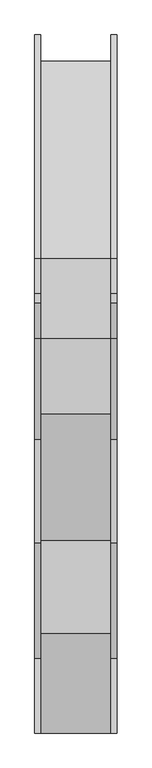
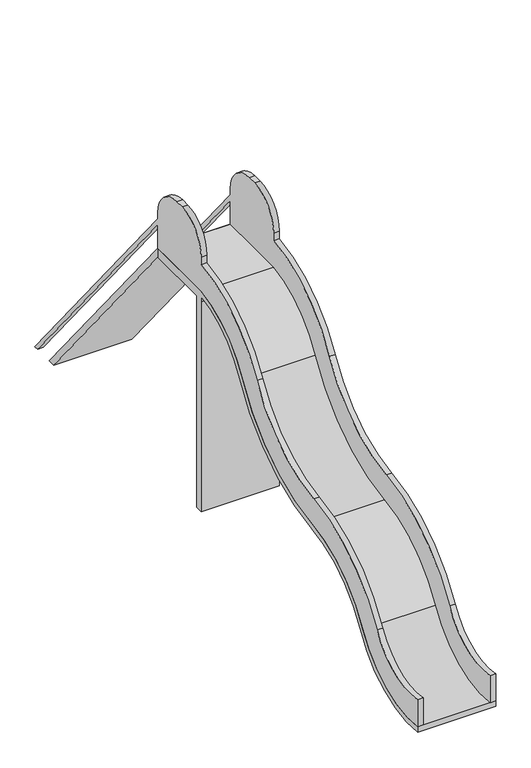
"""IFC4 building model written with IfcOpenShell, lengths in millimetres: furniture geometry, Rutsche : Rutsche."""

import ifcopenshell
import ifcopenshell.guid

model = None  # the IFC model being written
_history = None  # IfcOwnerHistory: only IFC2X3 demands one
_inside = {}  # id of a spatial element -> (the spatial element, [elements in it])
_under = {}  # id of a project, library or spatial element -> (it, [spatial elements below it])
_declared = {}  # id of a project -> (the project, [libraries it declares])
_typed = {}  # id of a type object -> (the type object, [elements of that type])
_made_of = {}  # id of a material, layer set ... -> (it, [elements and type objects made of it])


def new_model(schema):
    """Start an empty IFC model of exactly this schema.

    Asked for "IFC4X3", IfcOpenShell would pick the latest addendum, in which some entities
    have other attributes; the version numbers below select the first issue.
    IFC2X3 requires an IfcOwnerHistory on every rooted entity: one is made here for all.
    """
    global model, _history
    if schema == "IFC4X3":
        model = ifcopenshell.file(schema_version=(4, 3, 0, 0))
    else:
        model = ifcopenshell.file(schema=schema)
    _inside.clear()
    _under.clear()
    _declared.clear()
    _typed.clear()
    _made_of.clear()
    _history = None
    if model.schema == "IFC2X3":
        org = make("IfcOrganization", Name="unknown")
        user = make(
            "IfcPersonAndOrganization",
            ThePerson=make("IfcPerson", FamilyName="unknown"),
            TheOrganization=org,
        )
        app = make(
            "IfcApplication",
            ApplicationDeveloper=org,
            Version="unknown",
            ApplicationFullName="unknown",
            ApplicationIdentifier="unknown",
        )
        _history = make(
            "IfcOwnerHistory",
            OwningUser=user,
            OwningApplication=app,
            ChangeAction="ADDED",
            CreationDate=0,
        )
    return model


def make(cls, **values):
    """One entity of the class cls with the attributes given. An attribute that is None is left unset."""
    return model.create_entity(
        cls, **{name: value for name, value in values.items() if value is not None}
    )


def rooted(cls, **values):
    """An entity with a GlobalId (a new one), such as an element, a storey or a relation."""
    return make(cls, GlobalId=ifcopenshell.guid.new(), OwnerHistory=_history, **values)


def si_unit(unit_type, name, prefix=None):
    """IfcSIUnit, for example si_unit("LENGTHUNIT", "METRE", prefix="MILLI")."""
    return make("IfcSIUnit", UnitType=unit_type, Prefix=prefix, Name=name)


def assignment(units):
    """IfcUnitAssignment: the units of a project."""
    return None if units is None else make("IfcUnitAssignment", Units=units)


def point(xyz):
    """IfcCartesianPoint."""
    return None if xyz is None else make("IfcCartesianPoint", Coordinates=xyz)


def direction(xyz):
    """IfcDirection."""
    return None if xyz is None else make("IfcDirection", DirectionRatios=xyz)


def frame(location, z_axis=None, x_axis=None):
    """IfcAxis2Placement3D, a coordinate frame: its origin and axes. An axis left out is left unset."""
    return make(
        "IfcAxis2Placement3D",
        Location=point(location),
        Axis=direction(z_axis),
        RefDirection=direction(x_axis),
    )


def frame_2d(location, x_axis=None):
    """IfcAxis2Placement2D, a coordinate frame in the plane: its origin and x axis."""
    return make(
        "IfcAxis2Placement2D", Location=point(location), RefDirection=direction(x_axis)
    )


def origin():
    """The frame at (0, 0, 0) with its axes left unset."""
    return frame((0.0, 0.0, 0.0))


def place(relative_to, where):
    """IfcLocalPlacement: puts the frame where relative to a parent placement (None: the world)."""
    return make(
        "IfcLocalPlacement", PlacementRelTo=relative_to, RelativePlacement=where
    )


def context(
    kind, dimensions, precision=None, world=None, true_north=None, identifier=None
):
    """IfcGeometricRepresentationContext, for example the 3D "Model" context."""
    return make(
        "IfcGeometricRepresentationContext",
        ContextIdentifier=identifier,
        ContextType=kind,
        CoordinateSpaceDimension=dimensions,
        Precision=precision,
        WorldCoordinateSystem=world,
        TrueNorth=true_north,
    )


def project(units=None, contexts=None):
    """IfcProject with its units and contexts."""
    return rooted(
        "IfcProject",
        Name="project",
        RepresentationContexts=contexts,
        UnitsInContext=assignment(units),
    )


def spatial(cls, under=None, at=None, **own):
    """A site, building, storey or space (cls), placed at a placement, below another one or the project."""
    s = rooted(cls, ObjectPlacement=at, **own)
    if under is not None:
        _under.setdefault(under.id(), (under, []))[1].append(s)
    return s


def polyline(points):
    """IfcPolyline through the points."""
    return make("IfcPolyline", Points=[point(p) for p in points])


def circle_curve(where, radius):
    """IfcCircle in the frame where."""
    return make("IfcCircle", Position=where, Radius=radius)


def trimmed(basis, trim1, trim2, sense, master):
    """IfcTrimmedCurve: the piece of a basis curve between two trims."""
    return make(
        "IfcTrimmedCurve",
        BasisCurve=basis,
        Trim1=trim1,
        Trim2=trim2,
        SenseAgreement=sense,
        MasterRepresentation=master,
    )


def segment(curve, same_sense, transition):
    """IfcCompositeCurveSegment."""
    return make(
        "IfcCompositeCurveSegment",
        Transition=transition,
        SameSense=same_sense,
        ParentCurve=curve,
    )


def composite_curve(segments, self_intersect=None):
    """IfcCompositeCurve: segments joined end to end."""
    return make("IfcCompositeCurve", Segments=segments, SelfIntersect=self_intersect)


def outline(outer, holes=None, kind="AREA"):
    """IfcArbitraryClosedProfileDef: a profile drawn as a closed curve; with holes, ...WithVoids."""
    if holes is None:
        return make("IfcArbitraryClosedProfileDef", ProfileType=kind, OuterCurve=outer)
    return make(
        "IfcArbitraryProfileDefWithVoids",
        ProfileType=kind,
        OuterCurve=outer,
        InnerCurves=holes,
    )


def extrude(swept, where, along, depth):
    """IfcExtrudedAreaSolid: the profile swept, set in the frame where, extruded along a direction by depth."""
    return make(
        "IfcExtrudedAreaSolid",
        SweptArea=swept,
        Position=where,
        ExtrudedDirection=direction(along),
        Depth=depth,
    )


def shape(context_of_items, identifier, shape_type, items):
    """IfcShapeRepresentation: the items that make up one representation, for example the "Body"."""
    return make(
        "IfcShapeRepresentation",
        ContextOfItems=context_of_items,
        RepresentationIdentifier=identifier,
        RepresentationType=shape_type,
        Items=items,
    )


def source(mapping_origin, context_of_items, identifier, shape_type, items):
    """IfcRepresentationMap: a shape defined once, which mapped items show again and again."""
    return make(
        "IfcRepresentationMap",
        MappingOrigin=mapping_origin,
        MappedRepresentation=shape(context_of_items, identifier, shape_type, items),
    )


def transform(
    local_origin,
    x_axis=None,
    y_axis=None,
    z_axis=None,
    scale=None,
    scale2=None,
    scale3=None,
    uniform=True,
):
    """IfcCartesianTransformationOperator3D, or its non-uniform kind. x_axis, y_axis, z_axis: its Axis1, 2, 3."""
    if uniform:
        return make(
            "IfcCartesianTransformationOperator3D",
            Axis1=direction(x_axis),
            Axis2=direction(y_axis),
            LocalOrigin=point(local_origin),
            Scale=scale,
            Axis3=direction(z_axis),
        )
    return make(
        "IfcCartesianTransformationOperator3DnonUniform",
        Axis1=direction(x_axis),
        Axis2=direction(y_axis),
        LocalOrigin=point(local_origin),
        Scale=scale,
        Axis3=direction(z_axis),
        Scale2=scale2,
        Scale3=scale3,
    )


def mapped(mapping_source, mapping_target):
    """IfcMappedItem: shows the shape of a source again, moved by a transform."""
    return make(
        "IfcMappedItem", MappingSource=mapping_source, MappingTarget=mapping_target
    )


def made_of(thing, what):
    """Note that an element or type object is made of a material, layer set ...; save() writes the relation."""
    if what is not None:
        _made_of.setdefault(what.id(), (what, []))[1].append(thing)
    return thing


def element(
    cls,
    number,
    at=None,
    inside=None,
    cuts=None,
    type_object=None,
    material=None,
    context=None,
    identifier="Body",
    shape_type=None,
    held_by="IfcProductDefinitionShape",
    body=None,
    shapes=None,
    **own,
):
    """One element of the class cls, such as IfcWall. Its Tag is "e" and its number.

    at: its placement. inside: the storey or other place that contains it. cuts: it is an
    opening in that element (IfcRelVoidsElement). A single representation is given by context,
    identifier, shape_type and body (its items); several are given by shapes. held_by: the class
    of the entity that holds the representations. save() writes the other relations.
    """
    e = rooted(cls, Tag="e%d" % number, ObjectPlacement=at, **own)
    if body is not None:
        shapes = [shape(context, identifier, shape_type, body)]
    if shapes is not None:
        e.Representation = make(held_by, Representations=shapes)
    if inside is not None:
        _inside.setdefault(inside.id(), (inside, []))[1].append(e)
    if cuts is not None:
        rooted(
            "IfcRelVoidsElement", RelatingBuildingElement=cuts, RelatedOpeningElement=e
        )
    if type_object is not None:
        _typed.setdefault(type_object.id(), (type_object, []))[1].append(e)
    return made_of(e, material)


def aggregate(whole, parts):
    """IfcRelAggregates: a whole, such as a stair, and the parts it consists of."""
    return rooted("IfcRelAggregates", RelatingObject=whole, RelatedObjects=parts)


def save(model, path):
    """Write the relations noted so far, then the file.

    IfcRelAggregates (storeys below a building ...), IfcRelContainedInSpatialStructure (elements
    in a storey), IfcRelDefinesByType, IfcRelAssociatesMaterial and IfcRelDeclares: one each for
    every whole, place, type object, material and project.
    """
    for whole, parts in _under.values():
        aggregate(whole, parts)
    for where, things in _inside.values():
        rooted(
            "IfcRelContainedInSpatialStructure",
            RelatedElements=things,
            RelatingStructure=where,
        )
    for kind, things in _typed.values():
        rooted("IfcRelDefinesByType", RelatedObjects=things, RelatingType=kind)
    for what, things in _made_of.values():
        rooted("IfcRelAssociatesMaterial", RelatedObjects=things, RelatingMaterial=what)
    for by, libraries in _declared.values():
        rooted("IfcRelDeclares", RelatingContext=by, RelatedDefinitions=libraries)
    model.write(path)


def furniture_f8f826ff(model_context):
    return source(origin(), model_context, "Body", "SweptSolid", [
        extrude(outline(composite_curve([segment(polyline([(0.0, 1372.2177235), (0.0, 1240.0), (-400.0, 1240.0)]), True, "CONTINUOUS"), segment(trimmed(circle_curve(frame_2d((-335.3359946, 733.2259683)), 510.882915), [point((-400.0, 1240.0))], [point((-783.3333473, 978.7859911))], True, "CARTESIAN"), True, "CONTINUOUS"), segment(trimmed(circle_curve(frame_2d((-1511.5017145, 1377.9156729)), 830.3816436), [point((-783.3333473, 978.7859911))], [point((-1422.0682118, 552.3641467))], False, "CARTESIAN"), True, "CONTINUOUS"), segment(trimmed(circle_curve(frame_2d((-1355.6633016, -60.6127948)), 616.5633324), [point((-1422.0682118, 552.3641467))], [point((-1891.5512048, 244.3044038))], True, "CARTESIAN"), True, "CONTINUOUS"), segment(trimmed(circle_curve(frame_2d((-2320.6641107, 488.4672303)), 493.7138562), [point((-1891.5512048, 244.3044038))], [point((-2396.8114234, 0.6609587))], False, "CARTESIAN"), True, "CONTINUOUS"), segment(polyline([(-2396.8114234, 0.6609587), (-2396.8114234, 153.2944365)]), True, "CONTINUOUS"), segment(trimmed(circle_curve(frame_2d((-2320.6641107, 488.4672303)), 343.7138562), [point((-2396.8114234, 153.2944365))], [point((-2021.9241629, 318.4858827))], True, "CARTESIAN"), True, "CONTINUOUS"), segment(trimmed(circle_curve(frame_2d((-1355.6633016, -60.6127948)), 766.5633324), [point((-2021.9241629, 318.4858827))], [point((-1438.2234646, 701.4916351))], False, "CARTESIAN"), True, "CONTINUOUS"), segment(trimmed(circle_curve(frame_2d((-1511.5017145, 1377.9156729)), 680.3816436), [point((-1438.2234646, 701.4916351))], [point((-914.8695583, 1050.8847095))], True, "CARTESIAN"), True, "CONTINUOUS"), segment(trimmed(circle_curve(frame_2d((-335.3359946, 733.2259683)), 660.882915), [point((-914.8695583, 1050.8847095))], [point((-400.0, 1390.9377545))], False, "CARTESIAN"), True, "CONTINUOUS"), segment(polyline([(-400.0, 1390.9377545), (-400.0, 1432.0)]), True, "CONTINUOUS"), segment(trimmed(circle_curve(frame_2d((-223.9304115, 1432.0)), 176.0695885), [point((-400.0, 1432.0))], [point((-223.9304115, 1608.0695885))], False, "CARTESIAN"), True, "CONTINUOUS"), segment(polyline([(-223.9304115, 1608.0695885), (-176.0695885, 1608.0695885)]), True, "CONTINUOUS"), segment(trimmed(circle_curve(frame_2d((-176.0695885, 1432.0)), 176.0695885), [point((-176.0695885, 1608.0695885))], [point((-1.8713363, 1406.3978728))], False, "CARTESIAN"), True, "CONTINUOUS"), segment(polyline([(-1.8713363, 1406.3978728), (1132.3204967, 0.0), (1106.6271963, 0.0), (0.0, 1372.2177235)]), True, "CONTINUOUS")], self_intersect=False)), frame((385.6511751, 0.0, 0.0), z_axis=(1.0, 0.0, 0.0), x_axis=(0.0, 1.0, 0.0)), (0.0, 0.0, 1.0), 30.0),
        extrude(outline(composite_curve([segment(polyline([(0.0, 1372.2177235), (0.0, 1240.0), (-400.0, 1240.0)]), True, "CONTINUOUS"), segment(trimmed(circle_curve(frame_2d((-335.3359946, 733.2259683)), 510.882915), [point((-400.0, 1240.0))], [point((-783.3333473, 978.7859911))], True, "CARTESIAN"), True, "CONTINUOUS"), segment(trimmed(circle_curve(frame_2d((-1511.5017145, 1377.9156729)), 830.3816436), [point((-783.3333473, 978.7859911))], [point((-1422.0682118, 552.3641467))], False, "CARTESIAN"), True, "CONTINUOUS"), segment(trimmed(circle_curve(frame_2d((-1355.6633016, -60.6127948)), 616.5633324), [point((-1422.0682118, 552.3641467))], [point((-1891.5512048, 244.3044038))], True, "CARTESIAN"), True, "CONTINUOUS"), segment(trimmed(circle_curve(frame_2d((-2320.6641107, 488.4672303)), 493.7138562), [point((-1891.5512048, 244.3044038))], [point((-2396.8114234, 0.6609587))], False, "CARTESIAN"), True, "CONTINUOUS"), segment(polyline([(-2396.8114234, 0.6609587), (-2396.8114234, 153.2944365)]), True, "CONTINUOUS"), segment(trimmed(circle_curve(frame_2d((-2320.6641107, 488.4672303)), 343.7138562), [point((-2396.8114234, 153.2944365))], [point((-2021.9241629, 318.4858827))], True, "CARTESIAN"), True, "CONTINUOUS"), segment(trimmed(circle_curve(frame_2d((-1355.6633016, -60.6127948)), 766.5633324), [point((-2021.9241629, 318.4858827))], [point((-1438.2234646, 701.4916351))], False, "CARTESIAN"), True, "CONTINUOUS"), segment(trimmed(circle_curve(frame_2d((-1511.5017145, 1377.9156729)), 680.3816436), [point((-1438.2234646, 701.4916351))], [point((-914.8695583, 1050.8847095))], True, "CARTESIAN"), True, "CONTINUOUS"), segment(trimmed(circle_curve(frame_2d((-335.3359946, 733.2259683)), 660.882915), [point((-914.8695583, 1050.8847095))], [point((-400.0, 1390.9377545))], False, "CARTESIAN"), True, "CONTINUOUS"), segment(polyline([(-400.0, 1390.9377545), (-400.0, 1432.0)]), True, "CONTINUOUS"), segment(trimmed(circle_curve(frame_2d((-223.9304115, 1432.0)), 176.0695885), [point((-400.0, 1432.0))], [point((-223.9304115, 1608.0695885))], False, "CARTESIAN"), True, "CONTINUOUS"), segment(polyline([(-223.9304115, 1608.0695885), (-176.0695885, 1608.0695885)]), True, "CONTINUOUS"), segment(trimmed(circle_curve(frame_2d((-176.0695885, 1432.0)), 176.0695885), [point((-176.0695885, 1608.0695885))], [point((-1.8713363, 1406.3978728))], False, "CARTESIAN"), True, "CONTINUOUS"), segment(polyline([(-1.8713363, 1406.3978728), (1132.3204967, 0.0), (1106.6271963, 0.0), (0.0, 1372.2177235)]), True, "CONTINUOUS")], self_intersect=False)), frame((0.0, 0.0, 0.0), z_axis=(1.0, 0.0, 0.0), x_axis=(0.0, 1.0, 0.0)), (0.0, 0.0, 1.0), 30.3078488),
        extrude(outline(polyline([(1000.0, 0.0), (958.5360885, 0.0), (0.0, 1188.5847498), (0.0, 1240.0), (1000.0, 0.0)])), frame((0.0, 0.0, 0.0), z_axis=(1.0, 0.0, 0.0), x_axis=(0.0, 1.0, 0.0)), (0.0, 0.0, 1.0), 415.6511751),
        extrude(outline(composite_curve([segment(polyline([(-358.0, 1188.5847498), (-358.0, 0.0), (-400.0, 0.0), (-400.0, 1181.4759348), (-400.0, 1209.7413871)]), True, "CONTINUOUS"), segment(trimmed(circle_curve(frame_2d((-335.3359946, 733.2259683)), 480.882915), [point((-400.0, 1209.7413871))], [point((-757.0261051, 964.3662474))], True, "CARTESIAN"), True, "CONTINUOUS"), segment(trimmed(circle_curve(frame_2d((-1511.5017145, 1377.9156729)), 860.3816436), [point((-757.0261051, 964.3662474))], [point((-1418.8371612, 522.538649))], False, "CARTESIAN"), True, "CONTINUOUS"), segment(trimmed(circle_curve(frame_2d((-1355.6633016, -60.6127948)), 586.5633324), [point((-1418.8371612, 522.538649))], [point((-1865.4766132, 229.4681081))], True, "CARTESIAN"), True, "CONTINUOUS"), segment(trimmed(circle_curve(frame_2d((-2320.6641107, 488.4672303)), 523.7138562), [point((-1865.4766132, 229.4681081))], [point((-2396.8114234, -29.6811943))], False, "CARTESIAN"), True, "CONTINUOUS"), segment(polyline([(-2396.8114234, -29.6811943), (-2396.8114234, 0.6609587)]), True, "CONTINUOUS"), segment(trimmed(circle_curve(frame_2d((-2320.6641107, 488.4672303)), 493.7138562), [point((-2396.8114234, 0.6609587))], [point((-1891.5512048, 244.3044038))], True, "CARTESIAN"), True, "CONTINUOUS"), segment(trimmed(circle_curve(frame_2d((-1355.6633016, -60.6127948)), 616.5633324), [point((-1891.5512048, 244.3044038))], [point((-1422.0682118, 552.3641467))], False, "CARTESIAN"), True, "CONTINUOUS"), segment(trimmed(circle_curve(frame_2d((-1511.5017145, 1377.9156729)), 830.3816436), [point((-1422.0682118, 552.3641467))], [point((-783.3333473, 978.7859911))], True, "CARTESIAN"), True, "CONTINUOUS"), segment(trimmed(circle_curve(frame_2d((-335.3359946, 733.2259683)), 510.882915), [point((-783.3333473, 978.7859911))], [point((-400.0, 1240.0))], False, "CARTESIAN"), True, "CONTINUOUS"), segment(polyline([(-400.0, 1240.0), (0.0, 1240.0), (0.0, 1188.5847498), (-358.0, 1188.5847498)]), True, "CONTINUOUS")], self_intersect=False)), frame((0.0, 0.0, 0.0), z_axis=(1.0, 0.0, 0.0), x_axis=(0.0, 1.0, 0.0)), (0.0, 0.0, 1.0), 415.6511751),
    ])


if __name__ == "__main__":
    model = new_model("IFC4")
    model_context = context("Model", 3, world=origin())
    ifc_project = project(units=[si_unit("LENGTHUNIT", "METRE", prefix="MILLI")], contexts=[model_context])
    site = spatial("IfcSite", under=ifc_project)
    building = spatial("IfcBuilding", under=site)
    placement = place(None, origin())
    furniture_shape = furniture_f8f826ff(model_context)
    element("IfcFurniture", 1, ObjectType="Rutsche : Rutsche", at=placement, inside=building, context=model_context, shape_type="MappedRepresentation", body=[
        mapped(furniture_shape, transform((0.0, 0.0, 0.0), x_axis=(1.0, 0.0, 0.0), y_axis=(0.0, 1.0, 0.0), z_axis=(0.0, 0.0, 1.0))),
    ])
    save(model, "model.ifc")
